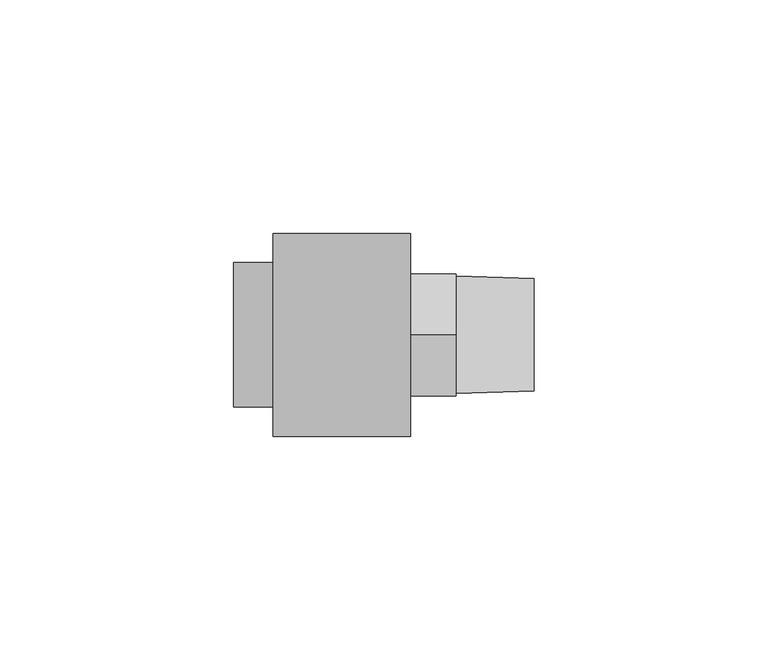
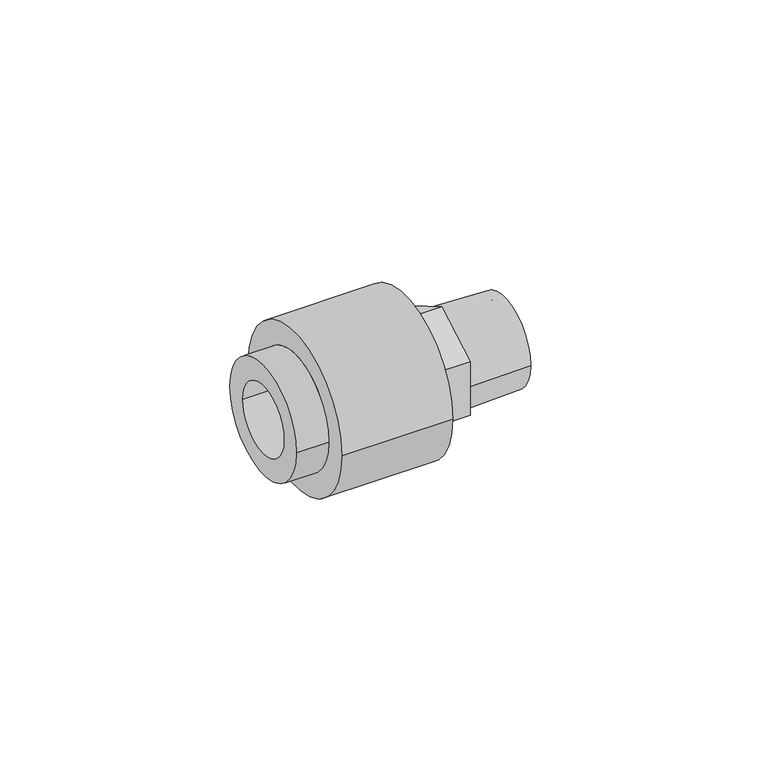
"""IFC4 building model written with IfcOpenShell, lengths in millimetres: pipe fitting geometry, Aquatherm - Fusion Outlet Transition Male : POTABLE BRASS - HEX."""

import ifcopenshell
import ifcopenshell.guid

model = None  # the IFC model being written
_history = None  # IfcOwnerHistory: only IFC2X3 demands one
_inside = {}  # id of a spatial element -> (the spatial element, [elements in it])
_under = {}  # id of a project, library or spatial element -> (it, [spatial elements below it])
_declared = {}  # id of a project -> (the project, [libraries it declares])
_typed = {}  # id of a type object -> (the type object, [elements of that type])
_made_of = {}  # id of a material, layer set ... -> (it, [elements and type objects made of it])


def new_model(schema):
    """Start an empty IFC model of exactly this schema.

    Asked for "IFC4X3", IfcOpenShell would pick the latest addendum, in which some entities
    have other attributes; the version numbers below select the first issue.
    IFC2X3 requires an IfcOwnerHistory on every rooted entity: one is made here for all.
    """
    global model, _history
    if schema == "IFC4X3":
        model = ifcopenshell.file(schema_version=(4, 3, 0, 0))
    else:
        model = ifcopenshell.file(schema=schema)
    _inside.clear()
    _under.clear()
    _declared.clear()
    _typed.clear()
    _made_of.clear()
    _history = None
    if model.schema == "IFC2X3":
        org = make("IfcOrganization", Name="unknown")
        user = make(
            "IfcPersonAndOrganization",
            ThePerson=make("IfcPerson", FamilyName="unknown"),
            TheOrganization=org,
        )
        app = make(
            "IfcApplication",
            ApplicationDeveloper=org,
            Version="unknown",
            ApplicationFullName="unknown",
            ApplicationIdentifier="unknown",
        )
        _history = make(
            "IfcOwnerHistory",
            OwningUser=user,
            OwningApplication=app,
            ChangeAction="ADDED",
            CreationDate=0,
        )
    return model


def make(cls, **values):
    """One entity of the class cls with the attributes given. An attribute that is None is left unset."""
    return model.create_entity(
        cls, **{name: value for name, value in values.items() if value is not None}
    )


def rooted(cls, **values):
    """An entity with a GlobalId (a new one), such as an element, a storey or a relation."""
    return make(cls, GlobalId=ifcopenshell.guid.new(), OwnerHistory=_history, **values)


def si_unit(unit_type, name, prefix=None):
    """IfcSIUnit, for example si_unit("LENGTHUNIT", "METRE", prefix="MILLI")."""
    return make("IfcSIUnit", UnitType=unit_type, Prefix=prefix, Name=name)


def assignment(units):
    """IfcUnitAssignment: the units of a project."""
    return None if units is None else make("IfcUnitAssignment", Units=units)


def point(xyz):
    """IfcCartesianPoint."""
    return None if xyz is None else make("IfcCartesianPoint", Coordinates=xyz)


def direction(xyz):
    """IfcDirection."""
    return None if xyz is None else make("IfcDirection", DirectionRatios=xyz)


def frame(location, z_axis=None, x_axis=None):
    """IfcAxis2Placement3D, a coordinate frame: its origin and axes. An axis left out is left unset."""
    return make(
        "IfcAxis2Placement3D",
        Location=point(location),
        Axis=direction(z_axis),
        RefDirection=direction(x_axis),
    )


def origin():
    """The frame at (0, 0, 0) with its axes left unset."""
    return frame((0.0, 0.0, 0.0))


def place(relative_to, where):
    """IfcLocalPlacement: puts the frame where relative to a parent placement (None: the world)."""
    return make(
        "IfcLocalPlacement", PlacementRelTo=relative_to, RelativePlacement=where
    )


def context(
    kind, dimensions, precision=None, world=None, true_north=None, identifier=None
):
    """IfcGeometricRepresentationContext, for example the 3D "Model" context."""
    return make(
        "IfcGeometricRepresentationContext",
        ContextIdentifier=identifier,
        ContextType=kind,
        CoordinateSpaceDimension=dimensions,
        Precision=precision,
        WorldCoordinateSystem=world,
        TrueNorth=true_north,
    )


def project(units=None, contexts=None):
    """IfcProject with its units and contexts."""
    return rooted(
        "IfcProject",
        Name="project",
        RepresentationContexts=contexts,
        UnitsInContext=assignment(units),
    )


def spatial(cls, under=None, at=None, **own):
    """A site, building, storey or space (cls), placed at a placement, below another one or the project."""
    s = rooted(cls, ObjectPlacement=at, **own)
    if under is not None:
        _under.setdefault(under.id(), (under, []))[1].append(s)
    return s


def polyline(points):
    """IfcPolyline through the points."""
    return make("IfcPolyline", Points=[point(p) for p in points])


def circle_curve(where, radius):
    """IfcCircle in the frame where."""
    return make("IfcCircle", Position=where, Radius=radius)


def shape(context_of_items, identifier, shape_type, items):
    """IfcShapeRepresentation: the items that make up one representation, for example the "Body"."""
    return make(
        "IfcShapeRepresentation",
        ContextOfItems=context_of_items,
        RepresentationIdentifier=identifier,
        RepresentationType=shape_type,
        Items=items,
    )


def source(mapping_origin, context_of_items, identifier, shape_type, items):
    """IfcRepresentationMap: a shape defined once, which mapped items show again and again."""
    return make(
        "IfcRepresentationMap",
        MappingOrigin=mapping_origin,
        MappedRepresentation=shape(context_of_items, identifier, shape_type, items),
    )


def transform(
    local_origin,
    x_axis=None,
    y_axis=None,
    z_axis=None,
    scale=None,
    scale2=None,
    scale3=None,
    uniform=True,
):
    """IfcCartesianTransformationOperator3D, or its non-uniform kind. x_axis, y_axis, z_axis: its Axis1, 2, 3."""
    if uniform:
        return make(
            "IfcCartesianTransformationOperator3D",
            Axis1=direction(x_axis),
            Axis2=direction(y_axis),
            LocalOrigin=point(local_origin),
            Scale=scale,
            Axis3=direction(z_axis),
        )
    return make(
        "IfcCartesianTransformationOperator3DnonUniform",
        Axis1=direction(x_axis),
        Axis2=direction(y_axis),
        LocalOrigin=point(local_origin),
        Scale=scale,
        Axis3=direction(z_axis),
        Scale2=scale2,
        Scale3=scale3,
    )


def mapped(mapping_source, mapping_target):
    """IfcMappedItem: shows the shape of a source again, moved by a transform."""
    return make(
        "IfcMappedItem", MappingSource=mapping_source, MappingTarget=mapping_target
    )


def made_of(thing, what):
    """Note that an element or type object is made of a material, layer set ...; save() writes the relation."""
    if what is not None:
        _made_of.setdefault(what.id(), (what, []))[1].append(thing)
    return thing


def element(
    cls,
    number,
    at=None,
    inside=None,
    cuts=None,
    type_object=None,
    material=None,
    context=None,
    identifier="Body",
    shape_type=None,
    held_by="IfcProductDefinitionShape",
    body=None,
    shapes=None,
    **own,
):
    """One element of the class cls, such as IfcWall. Its Tag is "e" and its number.

    at: its placement. inside: the storey or other place that contains it. cuts: it is an
    opening in that element (IfcRelVoidsElement). A single representation is given by context,
    identifier, shape_type and body (its items); several are given by shapes. held_by: the class
    of the entity that holds the representations. save() writes the other relations.
    """
    e = rooted(cls, Tag="e%d" % number, ObjectPlacement=at, **own)
    if body is not None:
        shapes = [shape(context, identifier, shape_type, body)]
    if shapes is not None:
        e.Representation = make(held_by, Representations=shapes)
    if inside is not None:
        _inside.setdefault(inside.id(), (inside, []))[1].append(e)
    if cuts is not None:
        rooted(
            "IfcRelVoidsElement", RelatingBuildingElement=cuts, RelatedOpeningElement=e
        )
    if type_object is not None:
        _typed.setdefault(type_object.id(), (type_object, []))[1].append(e)
    return made_of(e, material)


def aggregate(whole, parts):
    """IfcRelAggregates: a whole, such as a stair, and the parts it consists of."""
    return rooted("IfcRelAggregates", RelatingObject=whole, RelatedObjects=parts)


def save(model, path):
    """Write the relations noted so far, then the file.

    IfcRelAggregates (storeys below a building ...), IfcRelContainedInSpatialStructure (elements
    in a storey), IfcRelDefinesByType, IfcRelAssociatesMaterial and IfcRelDeclares: one each for
    every whole, place, type object, material and project.
    """
    for whole, parts in _under.values():
        aggregate(whole, parts)
    for where, things in _inside.values():
        rooted(
            "IfcRelContainedInSpatialStructure",
            RelatedElements=things,
            RelatingStructure=where,
        )
    for kind, things in _typed.values():
        rooted("IfcRelDefinesByType", RelatedObjects=things, RelatingType=kind)
    for what, things in _made_of.values():
        rooted("IfcRelAssociatesMaterial", RelatedObjects=things, RelatingMaterial=what)
    for by, libraries in _declared.values():
        rooted("IfcRelDeclares", RelatingContext=by, RelatedDefinitions=libraries)
    model.write(path)


def plane_surface(at):
    """IfcPlane: the flat surface through the origin of the frame at, square to its z axis."""
    return make("IfcPlane", Position=at)


def cylinder_surface(at, radius):
    """IfcCylindricalSurface: all points at the distance radius from the z axis of the frame at."""
    return make("IfcCylindricalSurface", Position=at, Radius=radius)


def revolved_surface(curve, axis_point, axis_direction):
    """IfcSurfaceOfRevolution: the curve turned about the line through axis_point along axis_direction."""
    return make(
        "IfcSurfaceOfRevolution",
        SweptCurve=make("IfcArbitraryOpenProfileDef", ProfileType="CURVE", Curve=curve),
        AxisPosition=make("IfcAxis1Placement", Location=point(axis_point), Axis=direction(axis_direction)),
    )


def advanced_brep(points, edges, surfaces, faces):
    """IfcAdvancedBrep: a solid bounded by faces that lie on surfaces and meet in shared edges.

    An edge is (start, end): straight between two places in points (the first is 0);
    or (start, end, curve); or (start, end, curve, False) where it runs against its curve.
    A face is (place in surfaces, loops), or (place, loops, False) where it looks against
    its surface's normal. A loop lists edges by number (the first is 1), with a minus sign
    where the edge is run from its end to its start. The first loop is the outer one.
    """
    corners = [point(p) for p in points]
    vertices = [make("IfcVertexPoint", VertexGeometry=c) for c in corners]
    made = []
    for start, end, *more in edges:
        made.append(
            make(
                "IfcEdgeCurve",
                EdgeStart=vertices[start],
                EdgeEnd=vertices[end],
                EdgeGeometry=more[0] if more else make("IfcPolyline", Points=[corners[start], corners[end]]),
                SameSense=more[1] if len(more) > 1 else True,
            )
        )
    hull = []
    for where, loops, *sense in faces:
        bounds = []
        for j, loop in enumerate(loops):
            ring = [make("IfcOrientedEdge", EdgeElement=made[abs(k) - 1], Orientation=k > 0) for k in loop]
            bounds.append(
                make(
                    "IfcFaceOuterBound" if j == 0 else "IfcFaceBound",
                    Bound=make("IfcEdgeLoop", EdgeList=ring),
                    Orientation=True,
                )
            )
        hull.append(make("IfcAdvancedFace", Bounds=bounds, FaceSurface=surfaces[where], SameSense=sense[0] if sense else True))
    return make("IfcAdvancedBrep", Outer=make("IfcClosedShell", CfsFaces=hull))


def pipe_fitting_2bf9b9c5(model_context):
    return source(origin(), model_context, "Body", "AdvancedBrep", [
        advanced_brep(
        [(9.1241563, 15.494, 0.0), (9.1241563, -15.494, 0.0), (9.1241563, 9.525, 0.0), (9.1241563, -9.525, 0.0), (29.4441563, 15.494, 0.0), (29.4441563, -15.494, 0.0), (29.4441563, 0.0, -15.1046377), (29.4441563, -13.081, -7.5523189), (29.4441563, -13.081, 7.5523189), (29.4441563, 0.0, 15.1046377), (29.4441563, 13.081, 7.5523189), (29.4441563, 13.081, -7.5523189), (29.4441563, 9.525, 0.0), (29.4441563, -9.525, 0.0), (39.0961563, 0.0, -15.1046377), (39.0961563, 13.081, -7.5523189), (39.0961563, 13.081, 7.5523189), (39.0961563, 0.0, 15.1046377), (39.0961563, -13.081, 7.5523189), (39.0961563, -13.081, -7.5523189), (39.0961563, 12.5560449, 0.0), (39.0961563, -12.5560449, 0.0), (39.0961563, 9.525, 0.0), (39.0961563, -9.525, 0.0), (55.8601563, -9.525, 0.0), (55.8601563, 9.525, 0.0), (55.8601563, -12.0502051, 0.0), (55.8601563, 12.0502051, 0.0)],
        [
            (0, 1, circle_curve(frame((9.1241563, 0.0, 0.0), z_axis=(-1.0, 0.0, 0.0), x_axis=(0.0, -1.0, 0.0)), 15.494)),
            (1, 0, circle_curve(frame((9.1241563, 0.0, 0.0), z_axis=(-1.0, 0.0, 0.0), x_axis=(0.0, -1.0, 0.0)), 15.494)),
            (2, 3, circle_curve(frame((9.1241563, 0.0, 0.0), z_axis=(1.0, 0.0, 0.0), x_axis=(0.0, -1.0, 0.0)), 9.525)),
            (3, 2, circle_curve(frame((9.1241563, 0.0, 0.0), z_axis=(1.0, 0.0, 0.0), x_axis=(0.0, -1.0, 0.0)), 9.525)),
            (4, 5, circle_curve(frame((29.4441563, 0.0, 0.0), z_axis=(1.0, 0.0, 0.0), x_axis=(0.0, -1.0, 0.0)), 15.494)),
            (5, 4, circle_curve(frame((29.4441563, 0.0, 0.0), z_axis=(1.0, 0.0, 0.0), x_axis=(0.0, -1.0, 0.0)), 15.494)),
            (6, 7),
            (7, 8),
            (8, 9),
            (9, 10),
            (10, 11),
            (11, 6),
            (0, 4),
            (5, 1),
            (2, 12),
            (12, 13, circle_curve(frame((29.4441563, 0.0, 0.0), z_axis=(1.0, 0.0, 0.0), x_axis=(0.0, -1.0, 0.0)), 9.525)),
            (13, 3),
            (13, 12, circle_curve(frame((29.4441563, 0.0, 0.0), z_axis=(1.0, 0.0, 0.0), x_axis=(0.0, -1.0, 0.0)), 9.525)),
            (14, 15),
            (15, 16),
            (16, 17),
            (17, 18),
            (18, 19),
            (19, 14),
            (20, 21, circle_curve(frame((39.0961563, 0.0, 0.0), z_axis=(-1.0, 0.0, 0.0), x_axis=(0.0, -1.0, 0.0)), 12.5560449)),
            (21, 20, circle_curve(frame((39.0961563, 0.0, 0.0), z_axis=(-1.0, 0.0, 0.0), x_axis=(0.0, -1.0, 0.0)), 12.5560449)),
            (19, 7),
            (6, 14),
            (18, 8),
            (17, 9),
            (16, 10),
            (15, 11),
            (12, 22),
            (22, 23, circle_curve(frame((39.0961563, 0.0, 0.0), z_axis=(1.0, 0.0, 0.0), x_axis=(0.0, -1.0, 0.0)), 9.525)),
            (23, 13),
            (23, 22, circle_curve(frame((39.0961563, 0.0, 0.0), z_axis=(1.0, 0.0, 0.0), x_axis=(0.0, -1.0, 0.0)), 9.525)),
            (23, 24),
            (24, 25, circle_curve(frame((55.8601563, 0.0, 0.0), z_axis=(1.0, 0.0, 0.0), x_axis=(0.0, -1.0, 0.0)), 9.525)),
            (25, 22),
            (25, 24, circle_curve(frame((55.8601563, 0.0, 0.0), z_axis=(1.0, 0.0, 0.0), x_axis=(0.0, -1.0, 0.0)), 9.525)),
            (24, 26),
            (26, 27, circle_curve(frame((55.8601563, 0.0, 0.0), z_axis=(1.0, 0.0, 0.0), x_axis=(0.0, -1.0, 0.0)), 12.0502051)),
            (27, 25),
            (27, 26, circle_curve(frame((55.8601563, 0.0, 0.0), z_axis=(1.0, 0.0, 0.0), x_axis=(0.0, -1.0, 0.0)), 12.0502051)),
            (26, 21),
            (20, 27),
        ],
        [
            plane_surface(frame((9.1241563, -15.494, 0.0), z_axis=(-1.0, 0.0, 0.0), x_axis=(0.0, 0.0, 1.0))),
            plane_surface(frame((29.4441563, -15.494, 0.0), z_axis=(1.0, 0.0, 0.0), x_axis=(0.0, 0.0, -1.0))),
            cylinder_surface(frame((29.4441563, 0.0, 0.0), z_axis=(-1.0, 0.0, 0.0), x_axis=(0.0, -1.0, 0.0)), 15.494),
            revolved_surface(polyline([(29.444156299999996, -9.525, 0.0), (9.1241563, -9.525, 0.0)]), (11.9969372, 0.0, 0.0), (1.0, 0.0, 0.0)),
            plane_surface(frame((39.0961563, 0.0, -15.1046377), z_axis=(1.0000000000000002, 0.0, 0.0), x_axis=(0.0, 0.8660254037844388, -0.49999999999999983))),
            plane_surface(frame((29.4441563, 0.0, -15.1046377), z_axis=(0.0, -0.49999999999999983, -0.8660254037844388), x_axis=(1.0, 0.0, 0.0))),
            plane_surface(frame((29.4441563, -13.081, -7.5523189), z_axis=(0.0, -1.0, 0.0), x_axis=(1.0, 0.0, 0.0))),
            plane_surface(frame((29.4441563, -13.081, 7.5523189), z_axis=(0.0, -0.4999999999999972, 0.8660254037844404), x_axis=(1.0, 0.0, 0.0))),
            plane_surface(frame((29.4441563, 0.0, 15.1046377), z_axis=(0.0, 0.500000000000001, 0.8660254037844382), x_axis=(1.0, 0.0, 0.0))),
            plane_surface(frame((29.4441563, 13.081, 7.5523189), z_axis=(0.0, 1.0, 0.0), x_axis=(1.0, 0.0, 0.0))),
            plane_surface(frame((29.4441563, 13.081, -7.5523189), z_axis=(0.0, 0.49999999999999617, -0.8660254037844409), x_axis=(1.0, 0.0, 0.0))),
            revolved_surface(polyline([(39.0961563, -9.525, 0.0), (29.4441563, -9.525, 0.0)]), (29.4441563, 0.0, 0.0), (1.0, 0.0, 0.0)),
            revolved_surface(polyline([(55.8601563, -9.525, 0.0), (39.0961563, -9.525, 0.0)]), (90.7332251, 0.0, 0.0), (1.0, 0.0, 0.0)),
            plane_surface(frame((55.8601563, 0.0, 0.0), z_axis=(1.0, 0.0, 0.0), x_axis=(0.0, -1.0, 0.0))),
            revolved_surface(polyline([(39.0961563, -12.5560449, 0.0), (55.8601563, -12.0502051, 0.0)]), (90.7332251, 0.0, 0.0), (1.0, 0.0, 0.0)),
        ],
        [
            (0, [[1, 2], [3, 4]]),
            (1, [[5, 6], [7, 8, 9, 10, 11, 12]]),
            (2, [[-1, 13, -6, 14]]),
            (2, [[-2, -14, -5, -13]]),
            (3, [[-3, 15, 16, 17]]),
            (3, [[-4, -17, 18, -15]]),
            (4, [[19, 20, 21, 22, 23, 24], [25, 26]]),
            (5, [[-24, 27, -7, 28]]),
            (6, [[-23, 29, -8, -27]]),
            (7, [[-22, 30, -9, -29]]),
            (8, [[-21, 31, -10, -30]]),
            (9, [[-20, 32, -11, -31]]),
            (10, [[-19, -28, -12, -32]]),
            (11, [[33, 34, 35, -16]]),
            (11, [[-33, -18, -35, 36]]),
            (12, [[37, 38, 39, -36]]),
            (12, [[-37, -34, -39, 40]]),
            (13, [[-38, 41, 42, 43]]),
            (13, [[-40, -43, 44, -41]]),
            (14, [[-42, 45, -25, 46]]),
            (14, [[-44, -46, -26, -45]]),
        ],
    ),
        advanced_brep(
        [(9.128125, 15.478125, 0.0), (9.128125, -15.478125, 0.0), (9.128125, 9.525, 0.0), (9.128125, -9.525, 0.0), (-8.5124324, -9.525, 0.0), (-8.5124324, 9.525, 0.0), (-8.5124324, -15.478125, 0.0), (-8.5124324, 15.478125, 0.0), (0.0, 15.478125, 0.0), (0.0, -15.478125, 0.0), (29.4441562, 21.7289063, 0.0), (29.4441562, -21.7289063, 0.0), (29.4441562, 15.478125, 0.0), (29.4441562, -15.478125, 0.0), (0.0, -21.7289063, 0.0), (0.0, 21.7289063, 0.0)],
        [
            (0, 1, circle_curve(frame((9.128125, 0.0, 0.0), z_axis=(1.0, 0.0, 0.0), x_axis=(0.0, -1.0, 0.0)), 15.478125)),
            (1, 0, circle_curve(frame((9.128125, 0.0, 0.0), z_axis=(1.0, 0.0, 0.0), x_axis=(0.0, -1.0, 0.0)), 15.478125)),
            (2, 3, circle_curve(frame((9.128125, 0.0, 0.0), z_axis=(-1.0, 0.0, 0.0), x_axis=(0.0, -1.0, 0.0)), 9.525)),
            (3, 2, circle_curve(frame((9.128125, 0.0, 0.0), z_axis=(-1.0, 0.0, 0.0), x_axis=(0.0, -1.0, 0.0)), 9.525)),
            (4, 5, circle_curve(frame((-8.5124324, 0.0, 0.0), z_axis=(-1.0, 0.0, 0.0), x_axis=(0.0, -1.0, 0.0)), 9.525)),
            (5, 2),
            (3, 4),
            (5, 4, circle_curve(frame((-8.5124324, 0.0, 0.0), z_axis=(-1.0, 0.0, 0.0), x_axis=(0.0, -1.0, 0.0)), 9.525)),
            (6, 7, circle_curve(frame((-8.5124324, 0.0, 0.0), z_axis=(1.0, 0.0, 0.0), x_axis=(0.0, -1.0, 0.0)), 15.478125)),
            (7, 8),
            (8, 9, circle_curve(frame((0.0, 0.0, 0.0), z_axis=(-1.0, 0.0, 0.0), x_axis=(0.0, -1.0, 0.0)), 15.478125)),
            (9, 6),
            (7, 6, circle_curve(frame((-8.5124324, 0.0, 0.0), z_axis=(1.0, 0.0, 0.0), x_axis=(0.0, -1.0, 0.0)), 15.478125)),
            (9, 8, circle_curve(frame((0.0, 0.0, 0.0), z_axis=(-1.0, 0.0, 0.0), x_axis=(0.0, -1.0, 0.0)), 15.478125)),
            (10, 11, circle_curve(frame((29.4441562, 0.0, 0.0), z_axis=(1.0, 0.0, 0.0), x_axis=(0.0, -1.0, 0.0)), 21.7289063)),
            (11, 10, circle_curve(frame((29.4441562, 0.0, 0.0), z_axis=(1.0, 0.0, 0.0), x_axis=(0.0, -1.0, 0.0)), 21.7289063)),
            (12, 13, circle_curve(frame((29.4441562, 0.0, 0.0), z_axis=(-1.0, 0.0, 0.0), x_axis=(0.0, -1.0, 0.0)), 15.478125)),
            (13, 12, circle_curve(frame((29.4441562, 0.0, 0.0), z_axis=(-1.0, 0.0, 0.0), x_axis=(0.0, -1.0, 0.0)), 15.478125)),
            (13, 1),
            (0, 12),
            (11, 14),
            (14, 15, circle_curve(frame((0.0, 0.0, 0.0), z_axis=(1.0, 0.0, 0.0), x_axis=(0.0, -1.0, 0.0)), 21.7289063)),
            (15, 10),
            (15, 14, circle_curve(frame((0.0, 0.0, 0.0), z_axis=(1.0, 0.0, 0.0), x_axis=(0.0, -1.0, 0.0)), 21.7289063)),
        ],
        [
            plane_surface(frame((9.128125, -9.525, 0.0), z_axis=(1.0, 0.0, 0.0), x_axis=(0.0, 0.0, 1.0))),
            revolved_surface(polyline([(9.128125, -9.525, 0.0), (-8.512432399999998, -9.525, 0.0)]), (9.128125, 0.0, 0.0), (1.0, 0.0, 0.0)),
            cylinder_surface(frame((0.0, 0.0, 0.0), z_axis=(-1.0, 0.0, 0.0), x_axis=(0.0, -1.0, 0.0)), 15.478125),
            plane_surface(frame((29.4441562, -15.478125, 0.0), z_axis=(1.0, 0.0, 0.0), x_axis=(0.0, 0.0, 1.0))),
            revolved_surface(polyline([(29.4441562, -15.478125, 0.0), (9.128125, -15.478125, 0.0)]), (29.4441562, 0.0, 0.0), (1.0, 0.0, 0.0)),
            cylinder_surface(frame((0.0, 0.0, 0.0), z_axis=(-1.0, 0.0, 0.0), x_axis=(0.0, -1.0, 0.0)), 21.7289063),
            plane_surface(frame((-8.5124324, -9.525, 0.0), z_axis=(-1.0, 0.0, 0.0), x_axis=(0.0, 0.0, -1.0))),
            plane_surface(frame((0.0, -15.478125, 0.0), z_axis=(-1.0, 0.0, 0.0), x_axis=(0.0, 0.0, -1.0))),
        ],
        [
            (0, [[1, 2], [3, 4]]),
            (1, [[5, 6, -4, 7]]),
            (1, [[8, -7, -3, -6]]),
            (2, [[9, 10, 11, 12]]),
            (2, [[13, -12, 14, -10]]),
            (3, [[15, 16], [17, 18]]),
            (4, [[-18, 19, -1, 20]]),
            (4, [[-17, -20, -2, -19]]),
            (5, [[-16, 21, 22, 23]]),
            (5, [[-15, -23, 24, -21]]),
            (6, [[-9, -13], [-5, -8]]),
            (7, [[-22, -24], [-11, -14]]),
        ],
    ),
    ])


if __name__ == "__main__":
    model = new_model("IFC4")
    model_context = context("Model", 3, world=origin())
    ifc_project = project(units=[si_unit("LENGTHUNIT", "METRE", prefix="MILLI")], contexts=[model_context])
    site = spatial("IfcSite", under=ifc_project)
    building = spatial("IfcBuilding", under=site)
    placement = place(None, origin())
    pipe_fitting_shape = pipe_fitting_2bf9b9c5(model_context)
    element("IfcPipeFitting", 1, ObjectType="Aquatherm - Fusion Outlet Transition Male : POTABLE BRASS - HEX", at=placement, inside=building, context=model_context, shape_type="MappedRepresentation", body=[
        mapped(pipe_fitting_shape, transform((0.0, 0.0, 0.0), x_axis=(1.0, 0.0, 0.0), y_axis=(0.0, 1.0, 0.0), z_axis=(0.0, 0.0, 1.0))),
    ])
    save(model, "model.ifc")
